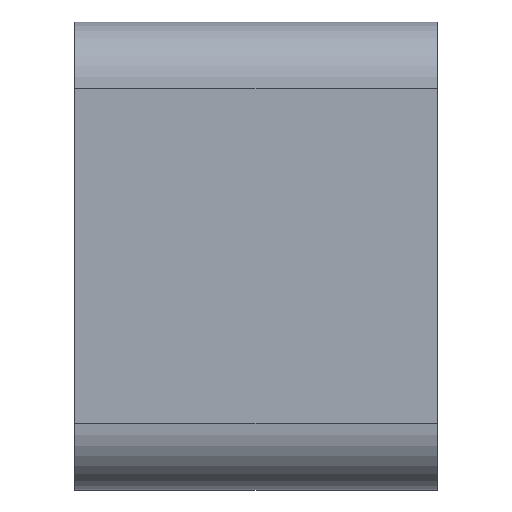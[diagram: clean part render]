
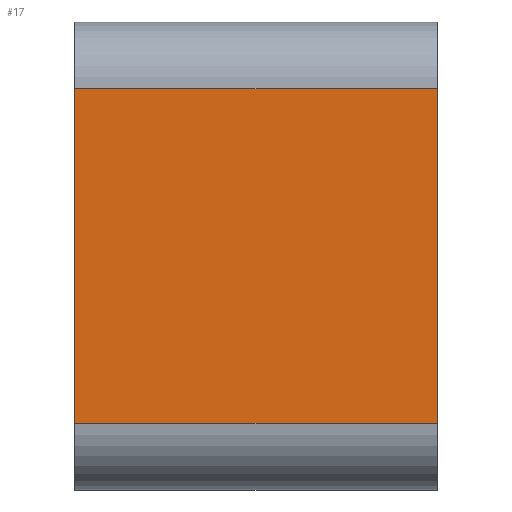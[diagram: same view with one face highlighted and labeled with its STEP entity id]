
A CAD part, top view. The second image highlights one B-rep face of the part: STEP entity #17.
In plain terms, the highlighted planar face has unit normal (0, 0, 1).
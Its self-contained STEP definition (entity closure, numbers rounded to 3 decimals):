
#17 = ADVANCED_FACE('',(#18),#32,.F.);
#18 = FACE_BOUND('',#19,.F.);
#19 = EDGE_LOOP('',(#20,#55,#83,#111));
#20 = ORIENTED_EDGE('',*,*,#21,.F.);
#21 = EDGE_CURVE('',#22,#24,#26,.T.);
#22 = VERTEX_POINT('',#23);
#23 = CARTESIAN_POINT('',(30.2,-35.139,-3.54));
#24 = VERTEX_POINT('',#25);
#25 = CARTESIAN_POINT('',(30.2,-29.139,-3.54));
#26 = SURFACE_CURVE('',#27,(#31,#43),.PCURVE_S1.);
#27 = LINE('',#28,#29);
#28 = CARTESIAN_POINT('',(30.2,-36.339,-3.54));
#29 = VECTOR('',#30,1.);
#30 = DIRECTION('',(0.,1.,0.));
#31 = PCURVE('',#32,#37);
#32 = PLANE('',#33);
#33 = AXIS2_PLACEMENT_3D('',#34,#35,#36);
#34 = CARTESIAN_POINT('',(23.7,-36.339,-3.54));
#35 = DIRECTION('',(0.,0.,-1.));
#36 = DIRECTION('',(1.,0.,0.));
#37 = DEFINITIONAL_REPRESENTATION('',(#38),#42);
#38 = LINE('',#39,#40);
#39 = CARTESIAN_POINT('',(6.5,0.));
#40 = VECTOR('',#41,1.);
#41 = DIRECTION('',(0.,-1.));
#42 = ( GEOMETRIC_REPRESENTATION_CONTEXT(2) 
PARAMETRIC_REPRESENTATION_CONTEXT() REPRESENTATION_CONTEXT('2D SPACE',''
  ) );
#43 = PCURVE('',#44,#49);
#44 = PLANE('',#45);
#45 = AXIS2_PLACEMENT_3D('',#46,#47,#48);
#46 = CARTESIAN_POINT('',(30.2,-36.339,-3.54));
#47 = DIRECTION('',(1.,0.,0.));
#48 = DIRECTION('',(0.,0.,-1.));
#49 = DEFINITIONAL_REPRESENTATION('',(#50),#54);
#50 = LINE('',#51,#52);
#51 = CARTESIAN_POINT('',(0.,0.));
#52 = VECTOR('',#53,1.);
#53 = DIRECTION('',(0.,1.));
#54 = ( GEOMETRIC_REPRESENTATION_CONTEXT(2) 
PARAMETRIC_REPRESENTATION_CONTEXT() REPRESENTATION_CONTEXT('2D SPACE',''
  ) );
#55 = ORIENTED_EDGE('',*,*,#56,.F.);
#56 = EDGE_CURVE('',#57,#22,#59,.T.);
#57 = VERTEX_POINT('',#58);
#58 = CARTESIAN_POINT('',(23.7,-35.139,-3.54));
#59 = SURFACE_CURVE('',#60,(#64,#71),.PCURVE_S1.);
#60 = LINE('',#61,#62);
#61 = CARTESIAN_POINT('',(23.7,-35.139,-3.54));
#62 = VECTOR('',#63,1.);
#63 = DIRECTION('',(1.,0.,0.));
#64 = PCURVE('',#32,#65);
#65 = DEFINITIONAL_REPRESENTATION('',(#66),#70);
#66 = LINE('',#67,#68);
#67 = CARTESIAN_POINT('',(0.,-1.2));
#68 = VECTOR('',#69,1.);
#69 = DIRECTION('',(1.,0.));
#70 = ( GEOMETRIC_REPRESENTATION_CONTEXT(2) 
PARAMETRIC_REPRESENTATION_CONTEXT() REPRESENTATION_CONTEXT('2D SPACE',''
  ) );
#71 = PCURVE('',#72,#77);
#72 = CYLINDRICAL_SURFACE('',#73,1.2);
#73 = AXIS2_PLACEMENT_3D('',#74,#75,#76);
#74 = CARTESIAN_POINT('',(23.7,-35.139,-4.74));
#75 = DIRECTION('',(1.,0.,0.));
#76 = DIRECTION('',(0.,0.,1.));
#77 = DEFINITIONAL_REPRESENTATION('',(#78),#82);
#78 = LINE('',#79,#80);
#79 = CARTESIAN_POINT('',(0.,0.));
#80 = VECTOR('',#81,1.);
#81 = DIRECTION('',(0.,1.));
#82 = ( GEOMETRIC_REPRESENTATION_CONTEXT(2) 
PARAMETRIC_REPRESENTATION_CONTEXT() REPRESENTATION_CONTEXT('2D SPACE',''
  ) );
#83 = ORIENTED_EDGE('',*,*,#84,.T.);
#84 = EDGE_CURVE('',#57,#85,#87,.T.);
#85 = VERTEX_POINT('',#86);
#86 = CARTESIAN_POINT('',(23.7,-29.139,-3.54));
#87 = SURFACE_CURVE('',#88,(#92,#99),.PCURVE_S1.);
#88 = LINE('',#89,#90);
#89 = CARTESIAN_POINT('',(23.7,-36.339,-3.54));
#90 = VECTOR('',#91,1.);
#91 = DIRECTION('',(0.,1.,0.));
#92 = PCURVE('',#32,#93);
#93 = DEFINITIONAL_REPRESENTATION('',(#94),#98);
#94 = LINE('',#95,#96);
#95 = CARTESIAN_POINT('',(0.,0.));
#96 = VECTOR('',#97,1.);
#97 = DIRECTION('',(0.,-1.));
#98 = ( GEOMETRIC_REPRESENTATION_CONTEXT(2) 
PARAMETRIC_REPRESENTATION_CONTEXT() REPRESENTATION_CONTEXT('2D SPACE',''
  ) );
#99 = PCURVE('',#100,#105);
#100 = PLANE('',#101);
#101 = AXIS2_PLACEMENT_3D('',#102,#103,#104);
#102 = CARTESIAN_POINT('',(23.7,-36.339,-3.54));
#103 = DIRECTION('',(1.,0.,0.));
#104 = DIRECTION('',(0.,0.,-1.));
#105 = DEFINITIONAL_REPRESENTATION('',(#106),#110);
#106 = LINE('',#107,#108);
#107 = CARTESIAN_POINT('',(0.,0.));
#108 = VECTOR('',#109,1.);
#109 = DIRECTION('',(0.,1.));
#110 = ( GEOMETRIC_REPRESENTATION_CONTEXT(2) 
PARAMETRIC_REPRESENTATION_CONTEXT() REPRESENTATION_CONTEXT('2D SPACE',''
  ) );
#111 = ORIENTED_EDGE('',*,*,#112,.T.);
#112 = EDGE_CURVE('',#85,#24,#113,.T.);
#113 = SURFACE_CURVE('',#114,(#118,#125),.PCURVE_S1.);
#114 = LINE('',#115,#116);
#115 = CARTESIAN_POINT('',(23.7,-29.139,-3.54));
#116 = VECTOR('',#117,1.);
#117 = DIRECTION('',(1.,0.,0.));
#118 = PCURVE('',#32,#119);
#119 = DEFINITIONAL_REPRESENTATION('',(#120),#124);
#120 = LINE('',#121,#122);
#121 = CARTESIAN_POINT('',(0.,-7.2));
#122 = VECTOR('',#123,1.);
#123 = DIRECTION('',(1.,0.));
#124 = ( GEOMETRIC_REPRESENTATION_CONTEXT(2) 
PARAMETRIC_REPRESENTATION_CONTEXT() REPRESENTATION_CONTEXT('2D SPACE',''
  ) );
#125 = PCURVE('',#126,#131);
#126 = CYLINDRICAL_SURFACE('',#127,1.2);
#127 = AXIS2_PLACEMENT_3D('',#128,#129,#130);
#128 = CARTESIAN_POINT('',(23.7,-29.139,-4.74));
#129 = DIRECTION('',(1.,0.,0.));
#130 = DIRECTION('',(0.,0.,1.));
#131 = DEFINITIONAL_REPRESENTATION('',(#132),#136);
#132 = LINE('',#133,#134);
#133 = CARTESIAN_POINT('',(-0.,0.));
#134 = VECTOR('',#135,1.);
#135 = DIRECTION('',(-0.,1.));
#136 = ( GEOMETRIC_REPRESENTATION_CONTEXT(2) 
PARAMETRIC_REPRESENTATION_CONTEXT() REPRESENTATION_CONTEXT('2D SPACE',''
  ) );
